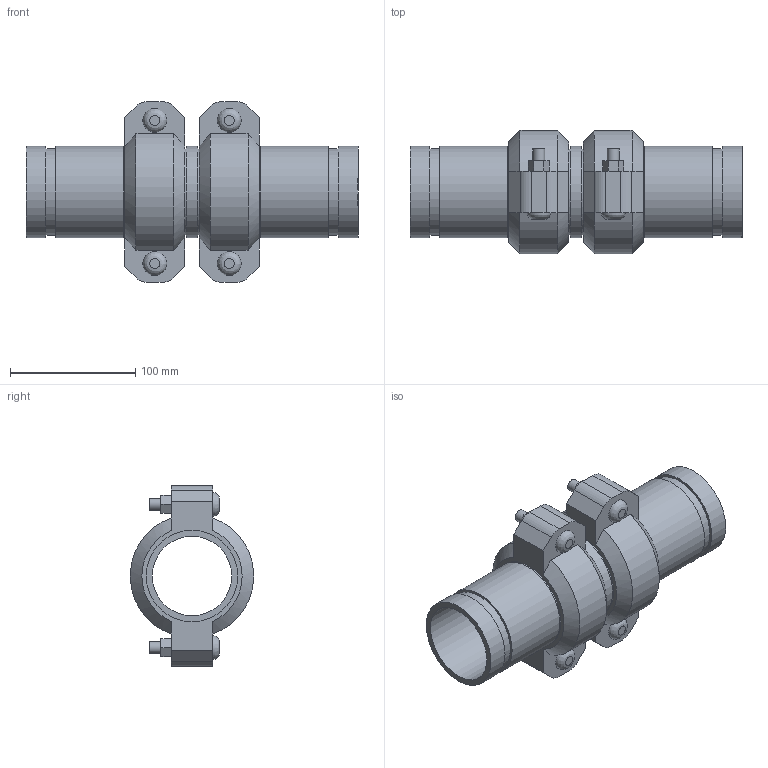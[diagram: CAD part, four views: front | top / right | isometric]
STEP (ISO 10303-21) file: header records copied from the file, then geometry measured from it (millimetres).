
FILE_DESCRIPTION(/* description */ ('VIC SS EXPANSION JOINT 2 COUPLINGS NEUTRAL STYLE 155P (OGS) (POTABLE WATER) ','CAx-IF Rec.Pracs.---Representation and Presentation of Product Manufacturing Information (PMI)---4.0---2014-10-13'),/* implementation_level */ '2;1');
FILE_NAME(/* name */ 'C:\Users\kkamble\AppData\Roaming\Autodesk\ApplicationPlugins\Victaulic.Temp\A659\Victaulic_SS_Expansion Joint_Neutral_2 Couplings_Style 155P (OGS)-Potable Water_2 Coup_Neut_2.5 (65).stp',/* time_stamp */ '2021-07-16T16:30:58+05:00',/* author */ ('kkamble'),/* organization */ ('Victaulic'),/* preprocessor_version */ 'ST-DEVELOPER v17.2',/* originating_system */ 'Autodesk Inventor 2019',/* authorisation */ '');
FILE_SCHEMA (('AP242_MANAGED_MODEL_BASED_3D_ENGINEERING_MIM_LF { 1 0 10303 442 1 1 4 }'));
Length unit declared in the file: inch
Products named in the file (4): 155P-02.5; Nipple-02.5; Nipple-02.5_1; 075-02.5
Assembly tree (5 placements, depth 2):
  155P-02.5
    Nipple-02.5  x2
    Nipple-02.5_1
    075-02.5  x2
Bounding box: 264.92 x 98.22 x 144.27 mm (x, y, z)
Volume: 676815.3 mm3; surface area: 210525.7 mm2
Topology: 5 solids, 9 shells, 150 faces, 356 edges, 252 vertices
Faces by surface type: plane 90, cylinder 48, cone 8, bspline 4
Full cylindrical faces by diameter (mm): 9.525 x8, 11.43 x4, 63.475 x3, 66.675 x2, 69.088 x6, 73.025 x13
Entity records: 2753 total; most frequent: CARTESIAN_POINT 489, DIRECTION 453, ORIENTED_EDGE 386, EDGE_CURVE 193, AXIS2_PLACEMENT_3D 180, VERTEX_POINT 138, EDGE_LOOP 107, LINE 93
